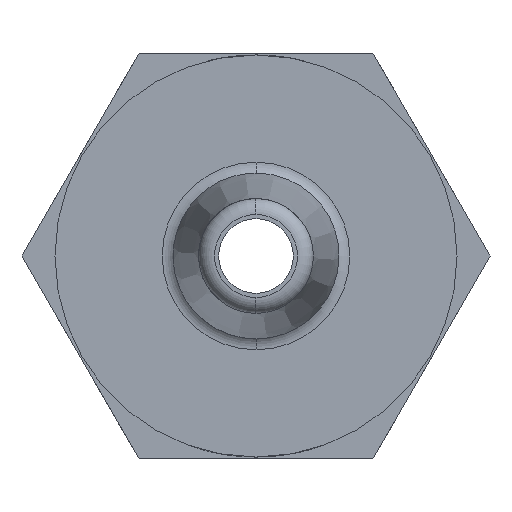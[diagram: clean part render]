
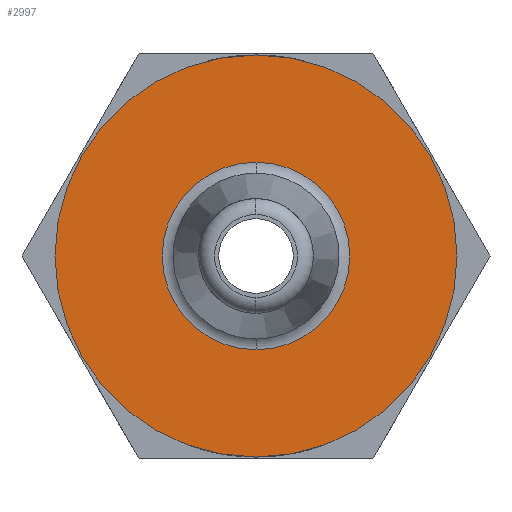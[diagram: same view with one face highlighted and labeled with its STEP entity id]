
A CAD part, left-side view. The second image highlights one B-rep face of the part: STEP entity #2997.
In plain terms, the highlighted planar face has unit normal (-1, 0, 0).
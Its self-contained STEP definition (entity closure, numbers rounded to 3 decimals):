
#56=FACE_BOUND('',#462,.T.);
#71=PLANE('',#3289);
#296=FACE_OUTER_BOUND('',#461,.T.);
#461=EDGE_LOOP('',(#2291,#2292));
#462=EDGE_LOOP('',(#2293,#2294));
#636=CIRCLE('',#3195,3.15);
#671=CIRCLE('',#3231,3.15);
#679=CIRCLE('',#3245,1.469);
#709=CIRCLE('',#3290,1.469);
#1283=VERTEX_POINT('',#5137);
#1284=VERTEX_POINT('',#5139);
#1383=VERTEX_POINT('',#5810);
#1384=VERTEX_POINT('',#5811);
#1608=EDGE_CURVE('',#1284,#1283,#636,.T.);
#1680=EDGE_CURVE('',#1283,#1284,#671,.T.);
#1723=EDGE_CURVE('',#1383,#1384,#679,.T.);
#1773=EDGE_CURVE('',#1384,#1383,#709,.T.);
#2291=ORIENTED_EDGE('',*,*,#1608,.T.);
#2292=ORIENTED_EDGE('',*,*,#1680,.T.);
#2293=ORIENTED_EDGE('',*,*,#1773,.T.);
#2294=ORIENTED_EDGE('',*,*,#1723,.T.);
#2997=ADVANCED_FACE('',(#296,#56),#71,.F.);
#3195=AXIS2_PLACEMENT_3D('',#5140,#3548,#3549);
#3231=AXIS2_PLACEMENT_3D('',#5374,#3651,#3652);
#3245=AXIS2_PLACEMENT_3D('',#5812,#3687,#3688);
#3289=AXIS2_PLACEMENT_3D('',#5912,#3794,#3795);
#3290=AXIS2_PLACEMENT_3D('',#5913,#3796,#3797);
#3548=DIRECTION('center_axis',(-1.,0.,0.));
#3549=DIRECTION('ref_axis',(0.,0.,1.));
#3651=DIRECTION('center_axis',(-1.,0.,0.));
#3652=DIRECTION('ref_axis',(0.,0.,
-1.));
#3687=DIRECTION('center_axis',(1.,0.,0.));
#3688=DIRECTION('ref_axis',(0.,0.,
1.));
#3794=DIRECTION('center_axis',(1.,0.,0.));
#3795=DIRECTION('ref_axis',(0.,0.,-1.));
#3796=DIRECTION('center_axis',(1.,0.,0.));
#3797=DIRECTION('ref_axis',(0.,0.,-1.));
#5137=CARTESIAN_POINT('',(-6.225,0.,-3.15));
#5139=CARTESIAN_POINT('',(-6.225,0.,3.15));
#5140=CARTESIAN_POINT('Origin',(-6.225,0.,0.));
#5374=CARTESIAN_POINT('Origin',(-6.225,0.,0.));
#5810=CARTESIAN_POINT('',(-6.225,0.,1.469));
#5811=CARTESIAN_POINT('',(-6.225,0.,-1.469));
#5812=CARTESIAN_POINT('Origin',(-6.225,0.,0.));
#5912=CARTESIAN_POINT('Origin',(-6.225,-3.188,0.));
#5913=CARTESIAN_POINT('Origin',(-6.225,0.,0.));
